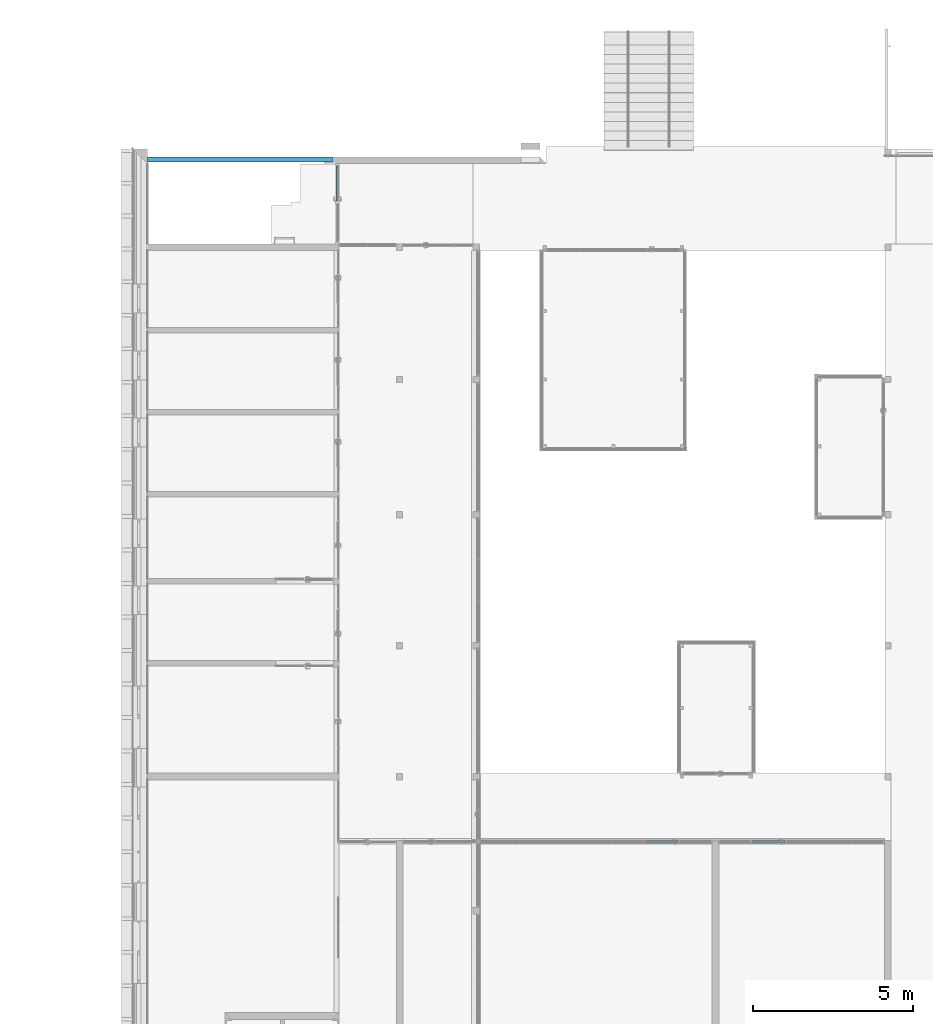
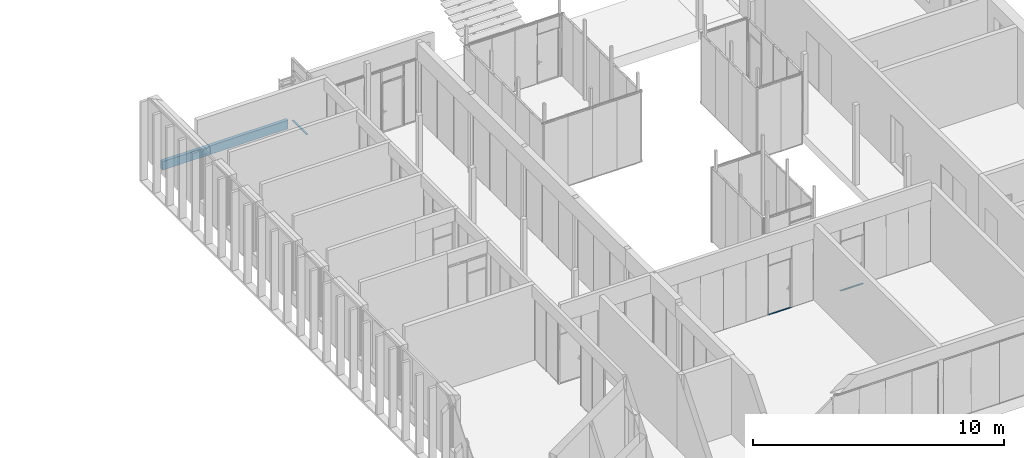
# One storey, part 7 of 387: 3 members, 1 beam, 3 elements without a shape of their own.
"""IFC2X3 building model written with IfcOpenShell, lengths in millimetres."""

from ifc_helpers import new_model, entity, si_unit, converted_unit, derived_unit, money_unit, direction, frame, frame_2d, origin_with_axes, place, context, subcontext, project, spatial, polyline, rectangle, outline, extrude, material, type_object, element, aggregate, save


model = new_model("IFC2X3")

# Units and contexts
model_context = context("Model", 3, precision=0.01, world=origin_with_axes(), true_north=direction((0.0, 1.0)))
body_context = subcontext(model_context, "Body", "Model", "MODEL_VIEW")
ifc_project = project(units=[si_unit("LENGTHUNIT", "METRE", prefix="MILLI"), si_unit("AREAUNIT", "SQUARE_METRE"), si_unit("VOLUMEUNIT", "CUBIC_METRE"), converted_unit("PLANEANGLEUNIT", "DEGREE", entity("IfcPlaneAngleMeasure", 0.0174532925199), si_unit("PLANEANGLEUNIT", "RADIAN"), dimensions=[0, 0, 0, 0, 0, 0, 0]), si_unit("SOLIDANGLEUNIT", "STERADIAN"), money_unit("EUR"), converted_unit("TIMEUNIT", "Year", entity("IfcTimeMeasure", 31556926.0), si_unit("TIMEUNIT", "SECOND"), dimensions=[0, 0, 1, 0, 0, 0, 0]), si_unit("MASSUNIT", "GRAM", prefix="KILO"), si_unit("THERMODYNAMICTEMPERATUREUNIT", "DEGREE_CELSIUS"), si_unit("LUMINOUSINTENSITYUNIT", "LUMEN"), si_unit("ENERGYUNIT", "JOULE", prefix="MEGA"), derived_unit("THERMALCONDUCTANCEUNIT", [(si_unit("POWERUNIT", "WATT"), 1), (si_unit("LENGTHUNIT", "METRE"), -1), (si_unit("THERMODYNAMICTEMPERATUREUNIT", "KELVIN"), -1)]), derived_unit("SPECIFICHEATCAPACITYUNIT", [(si_unit("ENERGYUNIT", "JOULE"), 1), (si_unit("MASSUNIT", "GRAM", prefix="KILO"), -1), (si_unit("THERMODYNAMICTEMPERATUREUNIT", "KELVIN"), -1)]), derived_unit("MASSDENSITYUNIT", [(si_unit("MASSUNIT", "GRAM", prefix="KILO"), 1), (si_unit("VOLUMEUNIT", "CUBIC_METRE"), -1)])], contexts=[model_context])

# Site, building, storey
site_placement = place(None, origin_with_axes())
site = spatial("IfcSite", under=ifc_project, at=site_placement, Name="Puškini 31, Narva", CompositionType="ELEMENT")
building_placement = place(site_placement, origin_with_axes())
building = spatial("IfcBuilding", under=site, at=building_placement, Name="Narva Riigigümnaasium", CompositionType="ELEMENT")
storey_placement = place(building_placement, frame((0.0, 0.0, 2640.0), z_axis=(0.0, 0.0, 1.0), x_axis=(1.0, 0.0, 0.0)))
storey = spatial("IfcBuildingStorey", under=building, at=storey_placement, Name="2.korrus +2.64", CompositionType="ELEMENT", Elevation=2640.0)

# Beam
ifc_material_1 = material(Name="ET-06_Teras - Konstruktsioon")
beam_type = type_object("IfcBeamType", Name="ET-06_Teras - Konstruktsioon 150 x 420", PredefinedType="BEAM")
beam_placement = place(storey_placement, frame((22409.9999985, 194900.0, 0.0), z_axis=(0.0, 0.0, 1.0), x_axis=(0.0, -1.0, 0.0)))
element("IfcBeam", 1, at=beam_placement, inside=storey, type_object=beam_type, material=ifc_material_1, Name="TALA", ObjectType="BEAM", context=body_context, shape_type="SweptSolid", body=[
    extrude(rectangle(XDim=420.000018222, YDim=150.0, at=frame_2d((-210.000009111, 75.0), x_axis=(1.0, 0.0))), frame((0.0, 0.0, 0.0), z_axis=(0.0, 1.0, 0.0), x_axis=(0.0, 0.0, 1.0)), (0.0, 0.0, 1.0), 5790.04041905),
])

# Curtain wall, member
curtain_wall_type = type_object("IfcCurtainWallType", Name="Curtain Wall Type", PredefinedType="NOTDEFINED")
curtain_wall_1_placement = place(storey_placement, frame((28355.1508299, 194100.024463, 0.0), z_axis=(0.0, 0.0, 1.0), x_axis=(1.0, 0.0, 0.0)))
curtain_wall_1 = element("IfcCurtainWall", 2, at=curtain_wall_1_placement, inside=storey, type_object=curtain_wall_type, Name="G-SKLF-25")
ifc_material_2 = material(Name="ET-04_Alumiinium")
member_type_1 = type_object("IfcMemberType", Name="20 x 90", PredefinedType="MULLION")
member_1_placement = place(curtain_wall_1_placement, frame((0.00246030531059, -600.00206552, 0.0), z_axis=(-4.10049474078e-06, 0.999999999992, 0.0), x_axis=(0.0, 0.0, 1.0)))
member_1 = element("IfcMember", 3, at=member_1_placement, type_object=member_type_1, material=ifc_material_2, Name="G-SKLF-25-raam", ObjectType="MULLION", context=body_context, shape_type="SweptSolid", body=[
    extrude(outline(polyline([(-45.0, -20.0), (45.0, -20.0), (45.0, 0.0), (-45.0, 0.0), (-45.0, -20.0)])), frame((0.0, 0.0, 0.0), z_axis=(0.0, 0.0, 1.0), x_axis=(0.0, 1.0, 0.0)), (0.0, 0.0, 1.0), 1146.80413105),
])
aggregate(curtain_wall_1, [member_1])

curtain_wall_2_placement = place(storey_placement, frame((37550.2857124, 173462.999993, -4.40148757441e-05), z_axis=(0.0, 0.0, 1.0), x_axis=(1.0, 0.0, 0.0)))
curtain_wall_2 = element("IfcCurtainWall", 4, at=curtain_wall_2_placement, inside=storey, type_object=curtain_wall_type, Name="G-SKLF-27")
member_type_2 = type_object("IfcMemberType", Name="20 x 74", PredefinedType="MULLION")
member_2_placement = place(curtain_wall_2_placement, frame((1495.71428571, 1.0430767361e-08, 3.92464998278e-05), z_axis=(-1.0, 0.0, 0.0), x_axis=(0.0, 0.0, 1.0)))
member_2 = element("IfcMember", 5, at=member_2_placement, type_object=member_type_2, material=ifc_material_2, Name="G-SKLF-27-raam", ObjectType="MULLION", context=body_context, shape_type="SweptSolid", body=[
    extrude(outline(polyline([(-37.0, -20.0), (37.0, -20.0), (37.0, 0.0), (-37.0, 0.0), (-37.0, -20.0)])), frame((0.0, 0.0, 0.0), z_axis=(0.0, 0.0, 1.0), x_axis=(0.0, 1.0, 0.0)), (0.0, 0.0, 1.0), 1044.0),
])
aggregate(curtain_wall_2, [member_2])

curtain_wall_3_placement = place(storey_placement, frame((41856.9999981, 173462.999993, -5.89838209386e-05), z_axis=(0.0, 0.0, 1.0), x_axis=(1.0, 0.0, 0.0)))
curtain_wall_3 = element("IfcCurtainWall", 6, at=curtain_wall_3_placement, inside=storey, type_object=curtain_wall_type, Name="G-SKLF-26")
member_3_placement = place(curtain_wall_3_placement, frame((-519.0, 5.11590769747e-09, 0.0), z_axis=(1.0, 0.0, 0.0), x_axis=(0.0, 0.0, 1.0)))
member_3 = element("IfcMember", 7, at=member_3_placement, type_object=member_type_2, material=ifc_material_2, Name="G-SKLF-28-raam", ObjectType="MULLION", context=body_context, shape_type="SweptSolid", body=[
    extrude(outline(polyline([(37.0, -20.0), (37.0, 0.0), (-37.0, 0.0), (-37.0, -20.0), (37.0, -20.0)])), frame((0.0, 0.0, 0.0), z_axis=(0.0, 0.0, 1.0), x_axis=(0.0, 1.0, 0.0)), (0.0, 0.0, 1.0), 1038.0),
])
aggregate(curtain_wall_3, [member_3])

save(model, "model.ifc")
